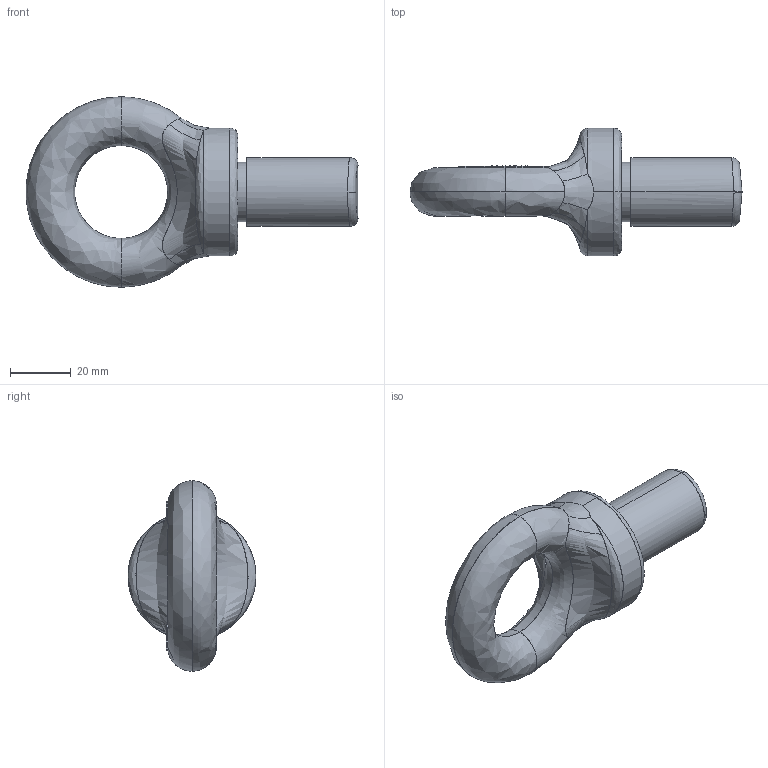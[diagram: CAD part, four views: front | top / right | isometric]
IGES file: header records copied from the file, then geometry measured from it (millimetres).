
Start section: SolidWorks IGES FILE using analytic representation for surfaces
Global section: file name: C:\Documents and Settings\Townley Workstation\Desktop\tooling\Townley products\Eye bolts\EBB750\Model\Finished part drawings\EBB750.IGS; native system: SolidWorks 2004 by SolidWorks Corporation; preprocessor: Version 5.3; author: Townley Workstation; date: 091119.135420; units: millimetre
Bounding box: 109.02 x 42 x 62.5 mm (x, y, z)
Surface area: 13130.9 mm2 (no closed solid volume)
Topology: 0 solids, 0 shells, 239 faces, 3025 edges, 3021 vertices
Faces by surface type: bspline 225, revolution 14
